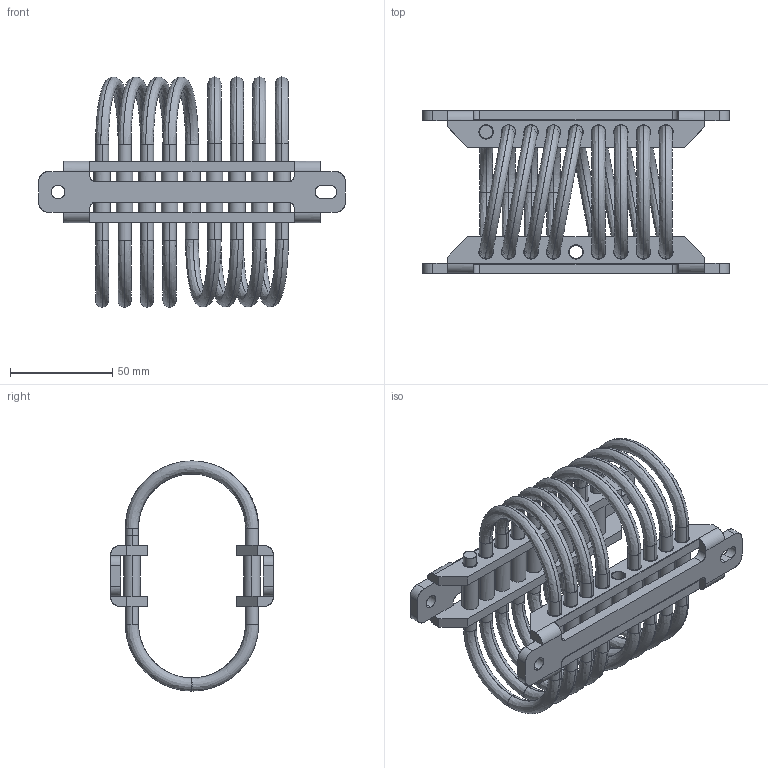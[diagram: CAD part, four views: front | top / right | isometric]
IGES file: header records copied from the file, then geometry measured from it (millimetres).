
Start section: SolidWorks IGES file using analytic representation for surfaces
Bounding box: 150 x 79.7 x 112.59 mm (x, y, z)
Surface area: 85663.6 mm2 (no closed solid volume)
Topology: 0 solids, 0 shells, 300 faces, 6648 edges, 6624 vertices
Faces by surface type: bspline 300
